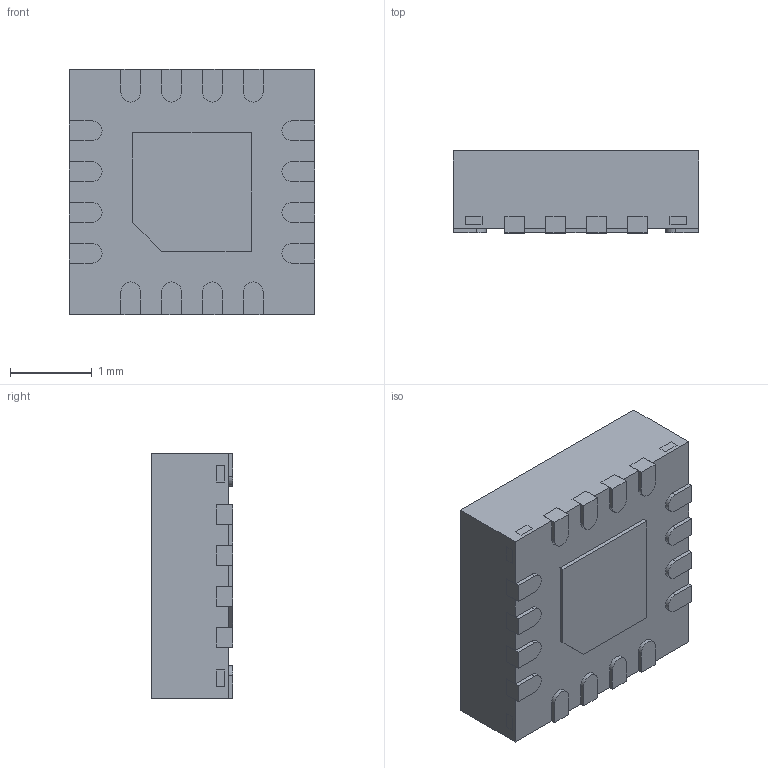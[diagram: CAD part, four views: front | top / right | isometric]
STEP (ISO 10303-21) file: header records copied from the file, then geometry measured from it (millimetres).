
FILE_DESCRIPTION (( 'STEP AP214' ), '1' );
FILE_NAME ('RGT16A.STEP', '2020-09-23T17:23:46', ( '' ), ( '' ), 'SwSTEP 2.0', 'SolidWorks 2017', '' );
FILE_SCHEMA (( 'AUTOMOTIVE_DESIGN' ));
Length unit declared in the file: millimetre
Products named in the file (1): RGT16A
Bounding box: 3 x 1 x 3 mm (x, y, z)
Volume: 8.7 mm3; surface area: 46.7 mm2
Topology: 23 solids, 23 shells, 250 faces, 606 edges, 404 vertices
Faces by surface type: plane 206, cylinder 44
Entity records: 8707 total; most frequent: CARTESIAN_POINT 1261, ORIENTED_EDGE 1212, DIRECTION 1196, EDGE_CURVE 606, LINE 518, VECTOR 518, VERTEX_POINT 404, AXIS2_PLACEMENT_3D 339
